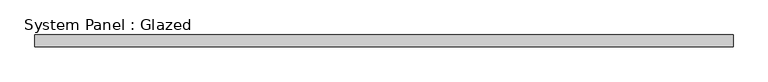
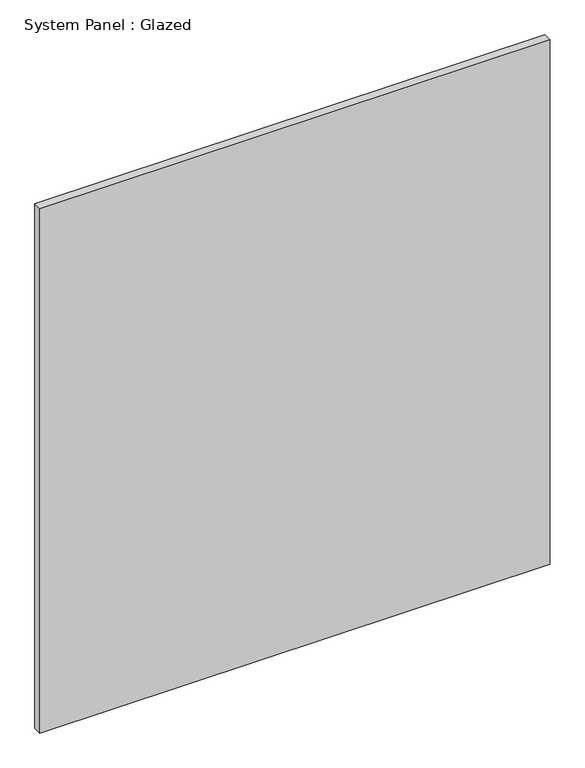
"""IFC4 building model written with IfcOpenShell, lengths in millimetres: plate geometry, System Panel : Glazed."""

from ifc_helpers import new_model, si_unit, origin, origin_with_axes, place, context, project, spatial, polyline, outline, extrude, source, transform, mapped, element, save


def system_panel_glazed_663b4f3b(model_context):
    return source(origin(), model_context, "Body", "SweptSolid", [
        extrude(outline(polyline([(742.95, 19.05), (-742.95, 19.05), (-742.95, 44.45), (742.95, 44.45), (742.95, 19.05)])), origin_with_axes(), (0.0, 0.0, 1.0), 1612.9),
    ])


if __name__ == "__main__":
    model = new_model("IFC4")
    model_context = context("Model", 3, world=origin())
    ifc_project = project(units=[si_unit("LENGTHUNIT", "METRE", prefix="MILLI")], contexts=[model_context])
    site = spatial("IfcSite", under=ifc_project)
    building = spatial("IfcBuilding", under=site)
    placement = place(None, origin())
    system_panel_glazed_shape = system_panel_glazed_663b4f3b(model_context)
    element("IfcPlate", 1, ObjectType="System Panel : Glazed", at=placement, inside=building, context=model_context, shape_type="MappedRepresentation", body=[
        mapped(system_panel_glazed_shape, transform((0.0, 0.0, 0.0), x_axis=(1.0, 0.0, 0.0), y_axis=(0.0, 1.0, 0.0), z_axis=(0.0, 0.0, 1.0))),
    ])
    save(model, "model.ifc")
